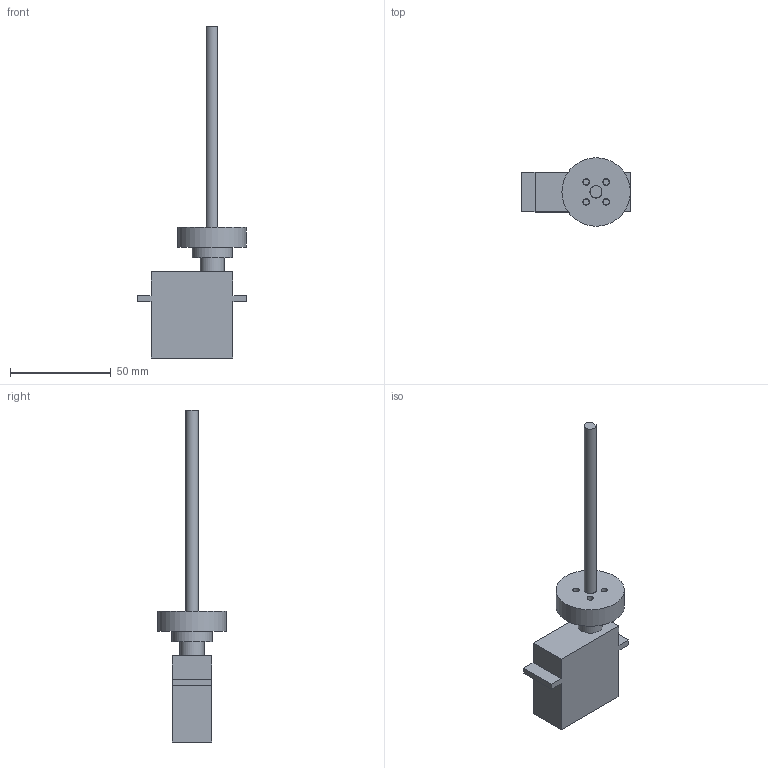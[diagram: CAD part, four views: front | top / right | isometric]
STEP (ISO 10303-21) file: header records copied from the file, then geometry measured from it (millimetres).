
FILE_DESCRIPTION(('Open CASCADE Model'),'2;1');
FILE_NAME('Open CASCADE Shape Model','2026-09-10T23:36:52',('Author'),( 'Open CASCADE'),'Open CASCADE STEP processor 7.9','Open CASCADE 7.9' ,'Unknown');
FILE_SCHEMA(('AUTOMOTIVE_DESIGN { 1 0 10303 214 1 1 1 1 }'));
Length unit declared in the file: millimetre
Products named in the file (5): Rotor_Drive_Subassembly; MG996R_Reference; 25T_Aluminum_Hub; Printed_Drive_Adapter; 6mm_D_Shaft
Assembly tree (4 placements, depth 2):
  Rotor_Drive_Subassembly
    MG996R_Reference
    25T_Aluminum_Hub
    Printed_Drive_Adapter
    6mm_D_Shaft
Bounding box: 54 x 34 x 164.9 mm (x, y, z)
Volume: 48380 mm3; surface area: 14133.5 mm2
Topology: 4 solids, 4 shells, 39 faces, 90 edges, 60 vertices
Faces by surface type: plane 24, cylinder 15
Full cylindrical faces by diameter (mm): 3 x4, 3.2 x4, 4.2 x1, 5.5 x1, 12 x1, 20 x1, 34 x1
Entity records: 2604 total; most frequent: CARTESIAN_POINT 673, DIRECTION 350, LINE 195, VECTOR 195, ORIENTED_EDGE 180, PCURVE 180, DEFINITIONAL_REPRESENTATION 180, EDGE_CURVE 90
